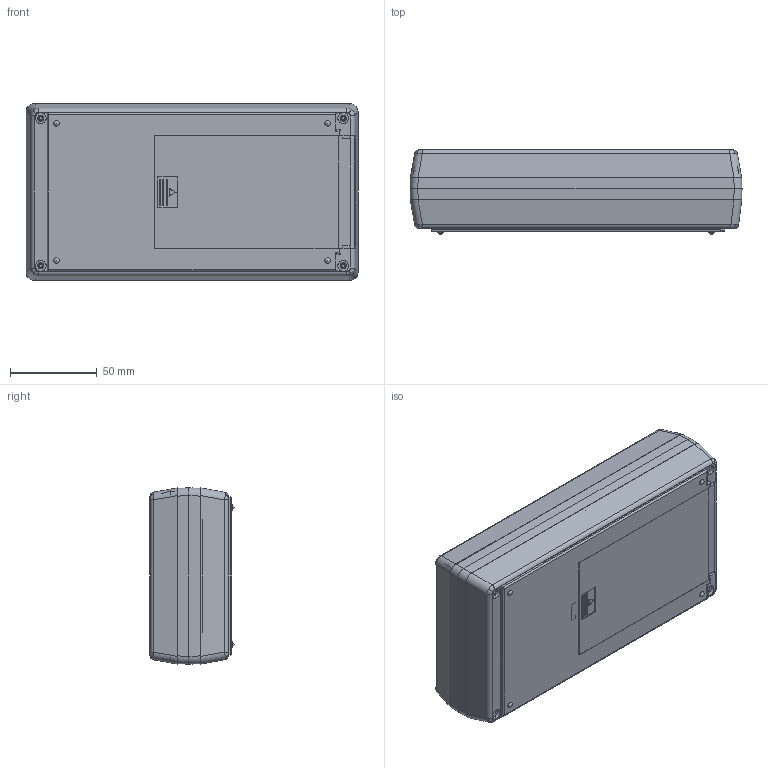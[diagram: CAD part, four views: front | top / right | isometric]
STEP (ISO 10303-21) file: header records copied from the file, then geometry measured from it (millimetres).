
FILE_DESCRIPTION (( 'STEP AP214' ), '1' );
FILE_NAME ('101-42-4C-E-R.STEP', '2019-12-01T00:58:21', ( 'Rudy' ), ( '' ), 'SwSTEP 2.0', 'SolidWorks 2014', '' );
FILE_SCHEMA (( 'AUTOMOTIVE_DESIGN' ));
Length unit declared in the file: millimetre
Products named in the file (5): 100-04-LCD Top; 100-02 BOT-4C; 101-42-4C-E-R; 4C door; 100-06 EXPANDER
Assembly tree (4 placements, depth 2):
  101-42-4C-E-R
    100-02 BOT-4C
    100-04-LCD Top
    100-06 EXPANDER
    4C door
Bounding box: 191 x 48.36 x 101.4 mm (x, y, z)
Volume: 146883.7 mm3; surface area: 171366.8 mm2
Topology: 4 solids, 4 shells, 888 faces, 2384 edges, 1502 vertices
Faces by surface type: plane 527, cylinder 263, cone 42, bspline 40, torus 12, sphere 4
Entity records: 28943 total; most frequent: CARTESIAN_POINT 7396, ORIENTED_EDGE 4696, DIRECTION 4118, EDGE_CURVE 2348, LINE 1630, VECTOR 1630, VERTEX_POINT 1494, AXIS2_PLACEMENT_3D 1244
